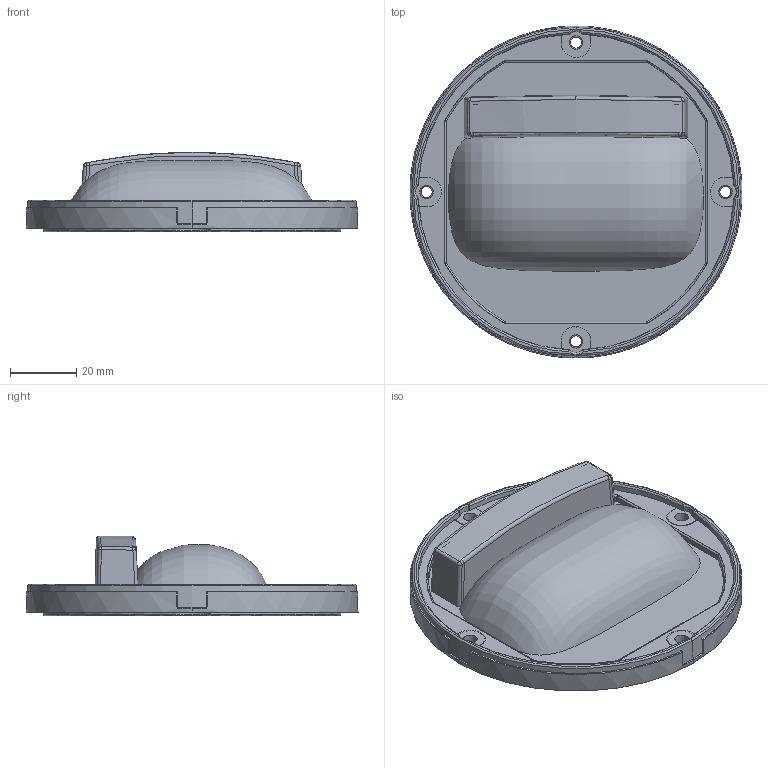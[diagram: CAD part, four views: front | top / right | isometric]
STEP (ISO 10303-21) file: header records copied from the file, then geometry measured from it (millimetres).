
FILE_DESCRIPTION (( 'STEP AP214' ), '1' );
FILE_NAME ('LUGA-C_MClass-Lens_with_Holder_RED.STEP', '2018-08-08T12:26:19', ( 'Admin' ), ( 'Microsoft' ), 'SwSTEP 2.0', 'SolidWorks 2017', '' );
FILE_SCHEMA (( 'AUTOMOTIVE_DESIGN' ));
Length unit declared in the file: millimetre
Products named in the file (3): LUGA-C_MClass-Lens_with_Holder_RED; Haltering_98801_t858-2018-Final
Assembly tree (2 placements, depth 2):
  LUGA-C_MClass-Lens_with_Holder_RED
    LUGA-C_MClass-Lens_with_Holder_RED
    Haltering_98801_t858-2018-Final
Bounding box: 100 x 100 x 24.04 mm (x, y, z)
Volume: 8767.9 mm3; surface area: 37595.3 mm2
Topology: 1 solids, 5 shells, 610 faces, 1537 edges, 921 vertices
Faces by surface type: bspline 214, cylinder 214, plane 128, cone 36, torus 18
Entity records: 41690 total; most frequent: CARTESIAN_POINT 28775, ORIENTED_EDGE 2969, DIRECTION 2254, EDGE_CURVE 1517, VERTEX_POINT 921, AXIS2_PLACEMENT_3D 853, EDGE_LOOP 640, FACE_OUTER_BOUND 610
